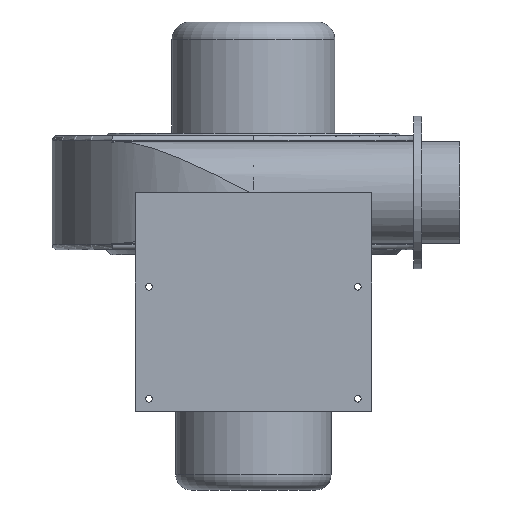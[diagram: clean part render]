
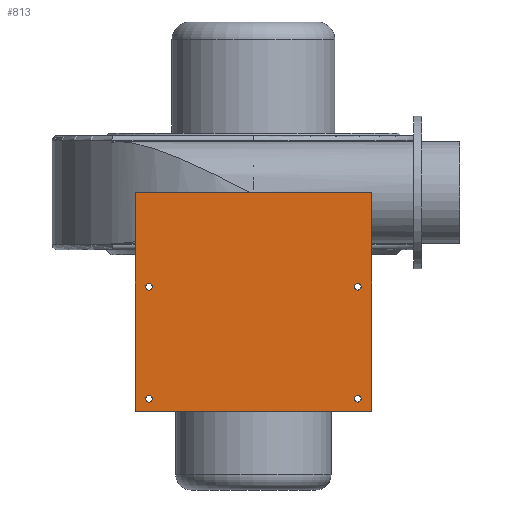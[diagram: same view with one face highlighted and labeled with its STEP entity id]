
A CAD part, front view. The second image highlights one B-rep face of the part: STEP entity #813.
In plain terms, the highlighted planar face has unit normal (0, -1, 0).
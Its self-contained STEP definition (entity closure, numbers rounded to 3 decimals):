
#10 = CIRCLE ( 'NONE', #350, 6.5 ) ;
#23 = EDGE_LOOP ( 'NONE', ( #1847, #798, #2301, #805 ) ) ;
#107 = CARTESIAN_POINT ( 'NONE',  ( 205., -518., -405. ) ) ;
#115 = FACE_BOUND ( 'NONE', #2297, .T. ) ;
#132 = CARTESIAN_POINT ( 'NONE',  ( 232.5, -518., -430. ) ) ;
#143 = ORIENTED_EDGE ( 'NONE', *, *, #2658, .F. ) ;
#146 = DIRECTION ( 'NONE',  ( 0., -1., 0. ) ) ;
#183 = CARTESIAN_POINT ( 'NONE',  ( 205., -518., -185. ) ) ;
#186 = FACE_BOUND ( 'NONE', #807, .T. ) ;
#242 = EDGE_LOOP ( 'NONE', ( #2166, #2518 ) ) ;
#301 = CARTESIAN_POINT ( 'NONE',  ( 205., -518., -398.5 ) ) ;
#309 = EDGE_LOOP ( 'NONE', ( #143, #2642 ) ) ;
#316 = LINE ( 'NONE', #1656, #2533 ) ;
#341 = DIRECTION ( 'NONE',  ( 0., 0., -1. ) ) ;
#350 = AXIS2_PLACEMENT_3D ( 'NONE', #1018, #2551, #1229 ) ;
#365 = CARTESIAN_POINT ( 'NONE',  ( -205., -518., -185. ) ) ;
#372 = CARTESIAN_POINT ( 'NONE',  ( -205., -518., -405. ) ) ;
#373 = DIRECTION ( 'NONE',  ( -1., 0., 0. ) ) ;
#382 = VECTOR ( 'NONE', #2742, 1000. ) ;
#390 = VERTEX_POINT ( 'NONE', #600 ) ;
#394 = DIRECTION ( 'NONE',  ( -1., 0., 0. ) ) ;
#410 = DIRECTION ( 'NONE',  ( 0., 0., -1. ) ) ;
#457 = VECTOR ( 'NONE', #982, 1000. ) ;
#467 = AXIS2_PLACEMENT_3D ( 'NONE', #372, #1861, #581 ) ;
#515 = LINE ( 'NONE', #132, #2084 ) ;
#530 = AXIS2_PLACEMENT_3D ( 'NONE', #2490, #1179, #2713 ) ;
#574 = DIRECTION ( 'NONE',  ( 0., 0., -1. ) ) ;
#581 = DIRECTION ( 'NONE',  ( 0., 0., -1. ) ) ;
#600 = CARTESIAN_POINT ( 'NONE',  ( -205., -518., -411.5 ) ) ;
#656 = AXIS2_PLACEMENT_3D ( 'NONE', #1340, #2451, #1141 ) ;
#692 = FACE_BOUND ( 'NONE', #242, .T. ) ;
#717 = VERTEX_POINT ( 'NONE', #301 ) ;
#724 = PLANE ( 'NONE',  #656 ) ;
#751 = DIRECTION ( 'NONE',  ( 0., -1., 0. ) ) ;
#770 = VERTEX_POINT ( 'NONE', #2443 ) ;
#788 = CARTESIAN_POINT ( 'NONE',  ( 232.5, -518., 0. ) ) ;
#798 = ORIENTED_EDGE ( 'NONE', *, *, #2732, .F. ) ;
#805 = ORIENTED_EDGE ( 'NONE', *, *, #2769, .T. ) ;
#807 = EDGE_LOOP ( 'NONE', ( #1895, #1120 ) ) ;
#813 = ADVANCED_FACE ( 'NONE', ( #816, #186, #692, #115, #2341 ), #724, .F. ) ;
#816 = FACE_BOUND ( 'NONE', #309, .T. ) ;
#853 = CIRCLE ( 'NONE', #467, 6.5 ) ;
#922 = VERTEX_POINT ( 'NONE', #1154 ) ;
#935 = VERTEX_POINT ( 'NONE', #2471 ) ;
#956 = VERTEX_POINT ( 'NONE', #2692 ) ;
#982 = DIRECTION ( 'NONE',  ( 0., 0., -1. ) ) ;
#993 = LINE ( 'NONE', #788, #382 ) ;
#1018 = CARTESIAN_POINT ( 'NONE',  ( 205., -518., -405. ) ) ;
#1032 = EDGE_CURVE ( 'NONE', #770, #2151, #2583, .T. ) ;
#1057 = CARTESIAN_POINT ( 'NONE',  ( -205., -518., -191.5 ) ) ;
#1085 = EDGE_CURVE ( 'NONE', #1339, #390, #853, .T. ) ;
#1118 = CARTESIAN_POINT ( 'NONE',  ( 205., -518., -191.5 ) ) ;
#1120 = ORIENTED_EDGE ( 'NONE', *, *, #1723, .F. ) ;
#1141 = DIRECTION ( 'NONE',  ( 0., 0., 1. ) ) ;
#1154 = CARTESIAN_POINT ( 'NONE',  ( -232.5, -518., 0. ) ) ;
#1172 = EDGE_CURVE ( 'NONE', #717, #956, #10, .T. ) ;
#1178 = VERTEX_POINT ( 'NONE', #1436 ) ;
#1179 = DIRECTION ( 'NONE',  ( 0., -1., 0. ) ) ;
#1229 = DIRECTION ( 'NONE',  ( 0., 0., -1. ) ) ;
#1291 = CARTESIAN_POINT ( 'NONE',  ( -205., -518., -398.5 ) ) ;
#1339 = VERTEX_POINT ( 'NONE', #1291 ) ;
#1340 = CARTESIAN_POINT ( 'NONE',  ( 232.5, -518., 0. ) ) ;
#1409 = CARTESIAN_POINT ( 'NONE',  ( -205., -518., -405. ) ) ;
#1436 = CARTESIAN_POINT ( 'NONE',  ( 205., -518., -178.5 ) ) ;
#1559 = CIRCLE ( 'NONE', #1875, 6.5 ) ;
#1568 = CIRCLE ( 'NONE', #2821, 6.5 ) ;
#1592 = DIRECTION ( 'NONE',  ( 0., -1., 0. ) ) ;
#1631 = DIRECTION ( 'NONE',  ( 0., 0., -1. ) ) ;
#1634 = CIRCLE ( 'NONE', #1876, 6.5 ) ;
#1641 = VERTEX_POINT ( 'NONE', #2286 ) ;
#1656 = CARTESIAN_POINT ( 'NONE',  ( 232.5, -518., 0. ) ) ;
#1672 = DIRECTION ( 'NONE',  ( 0., -1., 0. ) ) ;
#1685 = ORIENTED_EDGE ( 'NONE', *, *, #1085, .F. ) ;
#1714 = CIRCLE ( 'NONE', #1910, 6.5 ) ;
#1723 = EDGE_CURVE ( 'NONE', #1178, #2238, #1568, .T. ) ;
#1847 = ORIENTED_EDGE ( 'NONE', *, *, #2717, .T. ) ;
#1849 = DIRECTION ( 'NONE',  ( 0., -1., 0. ) ) ;
#1861 = DIRECTION ( 'NONE',  ( 0., -1., 0. ) ) ;
#1875 = AXIS2_PLACEMENT_3D ( 'NONE', #1409, #146, #1631 ) ;
#1876 = AXIS2_PLACEMENT_3D ( 'NONE', #365, #1849, #574 ) ;
#1895 = ORIENTED_EDGE ( 'NONE', *, *, #2661, .F. ) ;
#1910 = AXIS2_PLACEMENT_3D ( 'NONE', #2039, #751, #2261 ) ;
#1931 = AXIS2_PLACEMENT_3D ( 'NONE', #107, #1592, #341 ) ;
#2039 = CARTESIAN_POINT ( 'NONE',  ( 205., -518., -185. ) ) ;
#2071 = CARTESIAN_POINT ( 'NONE',  ( 232.5, -518., -430. ) ) ;
#2084 = VECTOR ( 'NONE', #373, 1000. ) ;
#2151 = VERTEX_POINT ( 'NONE', #1057 ) ;
#2166 = ORIENTED_EDGE ( 'NONE', *, *, #2691, .F. ) ;
#2220 = CIRCLE ( 'NONE', #1931, 6.5 ) ;
#2238 = VERTEX_POINT ( 'NONE', #1118 ) ;
#2261 = DIRECTION ( 'NONE',  ( 0., 0., -1. ) ) ;
#2286 = CARTESIAN_POINT ( 'NONE',  ( 232.5, -518., 0. ) ) ;
#2297 = EDGE_LOOP ( 'NONE', ( #2453, #1685 ) ) ;
#2301 = ORIENTED_EDGE ( 'NONE', *, *, #2749, .F. ) ;
#2341 = FACE_OUTER_BOUND ( 'NONE', #23, .T. ) ;
#2443 = CARTESIAN_POINT ( 'NONE',  ( -205., -518., -178.5 ) ) ;
#2451 = DIRECTION ( 'NONE',  ( 0., 1., 0. ) ) ;
#2453 = ORIENTED_EDGE ( 'NONE', *, *, #2710, .F. ) ;
#2471 = CARTESIAN_POINT ( 'NONE',  ( -232.5, -518., -430. ) ) ;
#2490 = CARTESIAN_POINT ( 'NONE',  ( -205., -518., -185. ) ) ;
#2518 = ORIENTED_EDGE ( 'NONE', *, *, #1032, .F. ) ;
#2533 = VECTOR ( 'NONE', #394, 1000. ) ;
#2551 = DIRECTION ( 'NONE',  ( 0., -1., 0. ) ) ;
#2583 = CIRCLE ( 'NONE', #530, 6.5 ) ;
#2642 = ORIENTED_EDGE ( 'NONE', *, *, #1172, .F. ) ;
#2658 = EDGE_CURVE ( 'NONE', #956, #717, #2220, .T. ) ;
#2661 = EDGE_CURVE ( 'NONE', #2238, #1178, #1714, .T. ) ;
#2691 = EDGE_CURVE ( 'NONE', #2151, #770, #1634, .T. ) ;
#2692 = CARTESIAN_POINT ( 'NONE',  ( 205., -518., -411.5 ) ) ;
#2700 = VERTEX_POINT ( 'NONE', #2071 ) ;
#2710 = EDGE_CURVE ( 'NONE', #390, #1339, #1559, .T. ) ;
#2713 = DIRECTION ( 'NONE',  ( 0., 0., -1. ) ) ;
#2717 = EDGE_CURVE ( 'NONE', #922, #935, #2741, .T. ) ;
#2732 = EDGE_CURVE ( 'NONE', #2700, #935, #515, .T. ) ;
#2736 = CARTESIAN_POINT ( 'NONE',  ( -232.5, -518., 0. ) ) ;
#2741 = LINE ( 'NONE', #2736, #457 ) ;
#2742 = DIRECTION ( 'NONE',  ( 0., 0., -1. ) ) ;
#2749 = EDGE_CURVE ( 'NONE', #1641, #2700, #993, .T. ) ;
#2769 = EDGE_CURVE ( 'NONE', #1641, #922, #316, .T. ) ;
#2821 = AXIS2_PLACEMENT_3D ( 'NONE', #183, #1672, #410 ) ;
